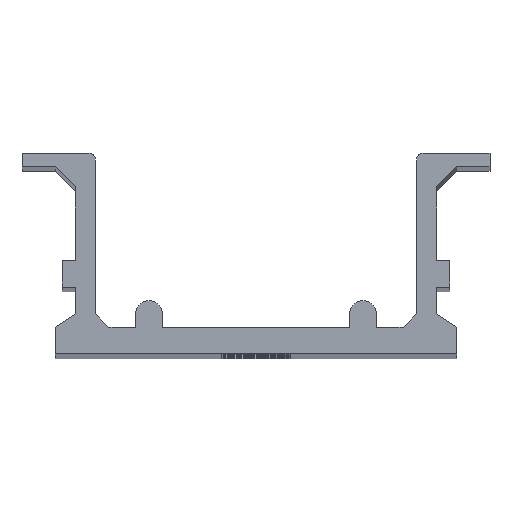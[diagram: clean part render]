
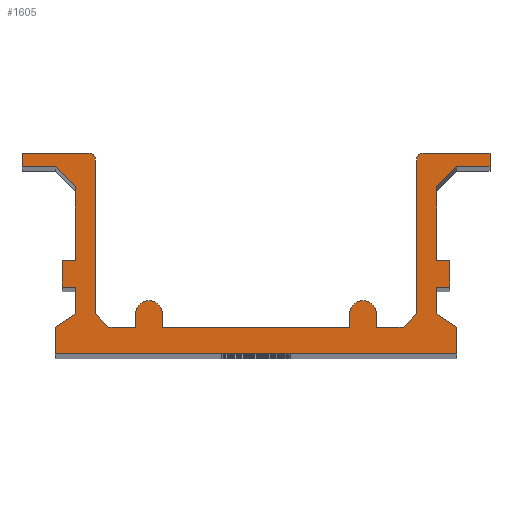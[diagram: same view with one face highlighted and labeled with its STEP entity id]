
A CAD part, top view. The second image highlights one B-rep face of the part: STEP entity #1605.
In plain terms, the highlighted planar face has unit normal (0, 0, 1).
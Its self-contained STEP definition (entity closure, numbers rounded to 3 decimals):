
#67=CIRCLE('',#1741,0.5);
#68=CIRCLE('',#1742,0.5);
#69=CIRCLE('',#1743,1.);
#70=CIRCLE('',#1744,1.);
#139=FACE_OUTER_BOUND('',#219,.T.);
#219=EDGE_LOOP('',(#1177,#1178,#1179,#1180,#1181,#1182,#1183,#1184,#1185,
#1186,#1187,#1188,#1189,#1190,#1191,#1192,#1193,#1194,#1195,#1196,#1197,
#1198,#1199,#1200,#1201,#1202,#1203,#1204,#1205,#1206,#1207,#1208,#1209,
#1210,#1211,#1212,#1213,#1214));
#351=LINE('',#2444,#537);
#352=LINE('',#2446,#538);
#353=LINE('',#2448,#539);
#354=LINE('',#2452,#540);
#355=LINE('',#2454,#541);
#356=LINE('',#2456,#542);
#357=LINE('',#2458,#543);
#358=LINE('',#2460,#544);
#359=LINE('',#2462,#545);
#360=LINE('',#2464,#546);
#361=LINE('',#2466,#547);
#362=LINE('',#2468,#548);
#363=LINE('',#2470,#549);
#364=LINE('',#2472,#550);
#365=LINE('',#2474,#551);
#366=LINE('',#2476,#552);
#367=LINE('',#2478,#553);
#368=LINE('',#2480,#554);
#369=LINE('',#2482,#555);
#370=LINE('',#2484,#556);
#371=LINE('',#2486,#557);
#372=LINE('',#2488,#558);
#373=LINE('',#2490,#559);
#374=LINE('',#2492,#560);
#375=LINE('',#2494,#561);
#376=LINE('',#2496,#562);
#377=LINE('',#2500,#563);
#378=LINE('',#2502,#564);
#379=LINE('',#2504,#565);
#380=LINE('',#2506,#566);
#381=LINE('',#2510,#567);
#382=LINE('',#2512,#568);
#383=LINE('',#2514,#569);
#384=LINE('',#2517,#570);
#537=VECTOR('',#2000,10.);
#538=VECTOR('',#2001,10.);
#539=VECTOR('',#2002,10.);
#540=VECTOR('',#2005,10.);
#541=VECTOR('',#2006,10.);
#542=VECTOR('',#2007,10.);
#543=VECTOR('',#2008,10.);
#544=VECTOR('',#2009,10.);
#545=VECTOR('',#2010,10.);
#546=VECTOR('',#2011,10.);
#547=VECTOR('',#2012,10.);
#548=VECTOR('',#2013,10.);
#549=VECTOR('',#2014,10.);
#550=VECTOR('',#2015,10.);
#551=VECTOR('',#2016,10.);
#552=VECTOR('',#2017,10.);
#553=VECTOR('',#2018,10.);
#554=VECTOR('',#2019,10.);
#555=VECTOR('',#2020,10.);
#556=VECTOR('',#2021,10.);
#557=VECTOR('',#2022,10.);
#558=VECTOR('',#2023,10.);
#559=VECTOR('',#2024,10.);
#560=VECTOR('',#2025,10.);
#561=VECTOR('',#2026,10.);
#562=VECTOR('',#2027,10.);
#563=VECTOR('',#2030,10.);
#564=VECTOR('',#2031,10.);
#565=VECTOR('',#2032,10.);
#566=VECTOR('',#2033,10.);
#567=VECTOR('',#2036,10.);
#568=VECTOR('',#2037,10.);
#569=VECTOR('',#2038,10.);
#570=VECTOR('',#2041,10.);
#723=VERTEX_POINT('',#2442);
#724=VERTEX_POINT('',#2443);
#725=VERTEX_POINT('',#2445);
#726=VERTEX_POINT('',#2447);
#727=VERTEX_POINT('',#2449);
#728=VERTEX_POINT('',#2451);
#729=VERTEX_POINT('',#2453);
#730=VERTEX_POINT('',#2455);
#731=VERTEX_POINT('',#2457);
#732=VERTEX_POINT('',#2459);
#733=VERTEX_POINT('',#2461);
#734=VERTEX_POINT('',#2463);
#735=VERTEX_POINT('',#2465);
#736=VERTEX_POINT('',#2467);
#737=VERTEX_POINT('',#2469);
#738=VERTEX_POINT('',#2471);
#739=VERTEX_POINT('',#2473);
#740=VERTEX_POINT('',#2475);
#741=VERTEX_POINT('',#2477);
#742=VERTEX_POINT('',#2479);
#743=VERTEX_POINT('',#2481);
#744=VERTEX_POINT('',#2483);
#745=VERTEX_POINT('',#2485);
#746=VERTEX_POINT('',#2487);
#747=VERTEX_POINT('',#2489);
#748=VERTEX_POINT('',#2491);
#749=VERTEX_POINT('',#2493);
#750=VERTEX_POINT('',#2495);
#751=VERTEX_POINT('',#2497);
#752=VERTEX_POINT('',#2499);
#753=VERTEX_POINT('',#2501);
#754=VERTEX_POINT('',#2503);
#755=VERTEX_POINT('',#2505);
#756=VERTEX_POINT('',#2507);
#757=VERTEX_POINT('',#2509);
#758=VERTEX_POINT('',#2511);
#759=VERTEX_POINT('',#2513);
#760=VERTEX_POINT('',#2515);
#911=EDGE_CURVE('',#723,#724,#351,.T.);
#912=EDGE_CURVE('',#724,#725,#352,.T.);
#913=EDGE_CURVE('',#725,#726,#353,.T.);
#914=EDGE_CURVE('',#726,#727,#67,.T.);
#915=EDGE_CURVE('',#727,#728,#354,.T.);
#916=EDGE_CURVE('',#728,#729,#355,.T.);
#917=EDGE_CURVE('',#729,#730,#356,.T.);
#918=EDGE_CURVE('',#730,#731,#357,.T.);
#919=EDGE_CURVE('',#731,#732,#358,.T.);
#920=EDGE_CURVE('',#732,#733,#359,.T.);
#921=EDGE_CURVE('',#733,#734,#360,.T.);
#922=EDGE_CURVE('',#734,#735,#361,.T.);
#923=EDGE_CURVE('',#735,#736,#362,.T.);
#924=EDGE_CURVE('',#736,#737,#363,.T.);
#925=EDGE_CURVE('',#737,#738,#364,.T.);
#926=EDGE_CURVE('',#738,#739,#365,.T.);
#927=EDGE_CURVE('',#739,#740,#366,.T.);
#928=EDGE_CURVE('',#740,#741,#367,.T.);
#929=EDGE_CURVE('',#741,#742,#368,.T.);
#930=EDGE_CURVE('',#742,#743,#369,.T.);
#931=EDGE_CURVE('',#743,#744,#370,.T.);
#932=EDGE_CURVE('',#744,#745,#371,.T.);
#933=EDGE_CURVE('',#745,#746,#372,.T.);
#934=EDGE_CURVE('',#746,#747,#373,.T.);
#935=EDGE_CURVE('',#747,#748,#374,.T.);
#936=EDGE_CURVE('',#748,#749,#375,.T.);
#937=EDGE_CURVE('',#749,#750,#376,.T.);
#938=EDGE_CURVE('',#750,#751,#68,.T.);
#939=EDGE_CURVE('',#751,#752,#377,.T.);
#940=EDGE_CURVE('',#752,#753,#378,.T.);
#941=EDGE_CURVE('',#753,#754,#379,.T.);
#942=EDGE_CURVE('',#754,#755,#380,.T.);
#943=EDGE_CURVE('',#755,#756,#69,.T.);
#944=EDGE_CURVE('',#756,#757,#381,.T.);
#945=EDGE_CURVE('',#757,#758,#382,.T.);
#946=EDGE_CURVE('',#758,#759,#383,.T.);
#947=EDGE_CURVE('',#759,#760,#70,.T.);
#948=EDGE_CURVE('',#760,#723,#384,.T.);
#1177=ORIENTED_EDGE('',*,*,#911,.T.);
#1178=ORIENTED_EDGE('',*,*,#912,.T.);
#1179=ORIENTED_EDGE('',*,*,#913,.T.);
#1180=ORIENTED_EDGE('',*,*,#914,.T.);
#1181=ORIENTED_EDGE('',*,*,#915,.T.);
#1182=ORIENTED_EDGE('',*,*,#916,.T.);
#1183=ORIENTED_EDGE('',*,*,#917,.T.);
#1184=ORIENTED_EDGE('',*,*,#918,.T.);
#1185=ORIENTED_EDGE('',*,*,#919,.T.);
#1186=ORIENTED_EDGE('',*,*,#920,.T.);
#1187=ORIENTED_EDGE('',*,*,#921,.T.);
#1188=ORIENTED_EDGE('',*,*,#922,.T.);
#1189=ORIENTED_EDGE('',*,*,#923,.T.);
#1190=ORIENTED_EDGE('',*,*,#924,.T.);
#1191=ORIENTED_EDGE('',*,*,#925,.T.);
#1192=ORIENTED_EDGE('',*,*,#926,.T.);
#1193=ORIENTED_EDGE('',*,*,#927,.T.);
#1194=ORIENTED_EDGE('',*,*,#928,.T.);
#1195=ORIENTED_EDGE('',*,*,#929,.T.);
#1196=ORIENTED_EDGE('',*,*,#930,.T.);
#1197=ORIENTED_EDGE('',*,*,#931,.T.);
#1198=ORIENTED_EDGE('',*,*,#932,.T.);
#1199=ORIENTED_EDGE('',*,*,#933,.T.);
#1200=ORIENTED_EDGE('',*,*,#934,.T.);
#1201=ORIENTED_EDGE('',*,*,#935,.T.);
#1202=ORIENTED_EDGE('',*,*,#936,.T.);
#1203=ORIENTED_EDGE('',*,*,#937,.T.);
#1204=ORIENTED_EDGE('',*,*,#938,.T.);
#1205=ORIENTED_EDGE('',*,*,#939,.T.);
#1206=ORIENTED_EDGE('',*,*,#940,.T.);
#1207=ORIENTED_EDGE('',*,*,#941,.T.);
#1208=ORIENTED_EDGE('',*,*,#942,.T.);
#1209=ORIENTED_EDGE('',*,*,#943,.T.);
#1210=ORIENTED_EDGE('',*,*,#944,.T.);
#1211=ORIENTED_EDGE('',*,*,#945,.T.);
#1212=ORIENTED_EDGE('',*,*,#946,.T.);
#1213=ORIENTED_EDGE('',*,*,#947,.T.);
#1214=ORIENTED_EDGE('',*,*,#948,.T.);
#1533=PLANE('',#1740);
#1605=ADVANCED_FACE('',(#139),#1533,.T.);
#1740=AXIS2_PLACEMENT_3D('',#2441,#1998,#1999);
#1741=AXIS2_PLACEMENT_3D('',#2450,#2003,#2004);
#1742=AXIS2_PLACEMENT_3D('',#2498,#2028,#2029);
#1743=AXIS2_PLACEMENT_3D('',#2508,#2034,#2035);
#1744=AXIS2_PLACEMENT_3D('',#2516,#2039,#2040);
#1998=DIRECTION('center_axis',(0.,0.,1.));
#1999=DIRECTION('ref_axis',(1.,0.,0.));
#2000=DIRECTION('',(-1.,0.,0.));
#2001=DIRECTION('',(-0.707,0.707,0.));
#2002=DIRECTION('',(0.,1.,0.));
#2003=DIRECTION('center_axis',(0.,0.,1.));
#2004=DIRECTION('ref_axis',(1.,0.,0.));
#2005=DIRECTION('',(-1.,0.,0.));
#2006=DIRECTION('',(0.,-1.,0.));
#2007=DIRECTION('',(1.,0.,0.));
#2008=DIRECTION('',(0.707,-0.707,0.));
#2009=DIRECTION('',(0.,-1.,0.));
#2010=DIRECTION('',(-1.,0.,0.));
#2011=DIRECTION('',(0.,-1.,0.));
#2012=DIRECTION('',(1.,0.,0.));
#2013=DIRECTION('',(0.,-1.,0.));
#2014=DIRECTION('',(-0.832,-0.555,0.));
#2015=DIRECTION('',(0.,-1.,0.));
#2016=DIRECTION('',(1.,0.,0.));
#2017=DIRECTION('',(0.,1.,0.));
#2018=DIRECTION('',(-0.832,0.555,0.));
#2019=DIRECTION('',(0.,1.,0.));
#2020=DIRECTION('',(1.,0.,0.));
#2021=DIRECTION('',(0.,1.,0.));
#2022=DIRECTION('',(-1.,0.,0.));
#2023=DIRECTION('',(0.,1.,0.));
#2024=DIRECTION('',(0.707,0.707,0.));
#2025=DIRECTION('',(1.,0.,0.));
#2026=DIRECTION('',(0.,1.,0.));
#2027=DIRECTION('',(-1.,0.,0.));
#2028=DIRECTION('center_axis',(0.,0.,1.));
#2029=DIRECTION('ref_axis',(0.,1.,0.));
#2030=DIRECTION('',(0.,-1.,0.));
#2031=DIRECTION('',(-0.707,-0.707,0.));
#2032=DIRECTION('',(-1.,0.,0.));
#2033=DIRECTION('',(0.,1.,0.));
#2034=DIRECTION('center_axis',(0.,0.,1.));
#2035=DIRECTION('ref_axis',(1.,0.,0.));
#2036=DIRECTION('',(0.,-1.,0.));
#2037=DIRECTION('',(-1.,0.,0.));
#2038=DIRECTION('',(0.,1.,0.));
#2039=DIRECTION('center_axis',(0.,0.,1.));
#2040=DIRECTION('ref_axis',(1.,0.,0.));
#2041=DIRECTION('',(0.,-1.,0.));
#2441=CARTESIAN_POINT('Origin',(0.,7.5,197.));
#2442=CARTESIAN_POINT('',(-9.,2.,197.));
#2443=CARTESIAN_POINT('',(-11.,2.,197.));
#2444=CARTESIAN_POINT('',(-9.,2.,197.));
#2445=CARTESIAN_POINT('',(-12.,3.,197.));
#2446=CARTESIAN_POINT('',(-11.,2.,197.));
#2447=CARTESIAN_POINT('',(-12.,14.5,197.));
#2448=CARTESIAN_POINT('',(-12.,3.,197.));
#2449=CARTESIAN_POINT('',(-12.5,15.,197.));
#2450=CARTESIAN_POINT('Origin',(-12.5,14.5,197.));
#2451=CARTESIAN_POINT('',(-17.5,15.,197.));
#2452=CARTESIAN_POINT('',(-12.5,15.,197.));
#2453=CARTESIAN_POINT('',(-17.5,14.,197.));
#2454=CARTESIAN_POINT('',(-17.5,15.,197.));
#2455=CARTESIAN_POINT('',(-15.,14.,197.));
#2456=CARTESIAN_POINT('',(-17.5,14.,197.));
#2457=CARTESIAN_POINT('',(-13.5,12.5,197.));
#2458=CARTESIAN_POINT('',(-15.,14.,197.));
#2459=CARTESIAN_POINT('',(-13.5,7.,197.));
#2460=CARTESIAN_POINT('',(-13.5,12.5,197.));
#2461=CARTESIAN_POINT('',(-14.5,7.,197.));
#2462=CARTESIAN_POINT('',(-13.5,7.,197.));
#2463=CARTESIAN_POINT('',(-14.5,5.,197.));
#2464=CARTESIAN_POINT('',(-14.5,7.,197.));
#2465=CARTESIAN_POINT('',(-13.5,5.,197.));
#2466=CARTESIAN_POINT('',(-14.5,5.,197.));
#2467=CARTESIAN_POINT('',(-13.5,3.,197.));
#2468=CARTESIAN_POINT('',(-13.5,5.,197.));
#2469=CARTESIAN_POINT('',(-15.,2.,197.));
#2470=CARTESIAN_POINT('',(-13.5,3.,197.));
#2471=CARTESIAN_POINT('',(-15.,0.,197.));
#2472=CARTESIAN_POINT('',(-15.,2.,197.));
#2473=CARTESIAN_POINT('',(15.,0.,197.));
#2474=CARTESIAN_POINT('',(-15.,0.,197.));
#2475=CARTESIAN_POINT('',(15.,2.,197.));
#2476=CARTESIAN_POINT('',(15.,0.,197.));
#2477=CARTESIAN_POINT('',(13.5,3.,197.));
#2478=CARTESIAN_POINT('',(15.,2.,197.));
#2479=CARTESIAN_POINT('',(13.5,5.,197.));
#2480=CARTESIAN_POINT('',(13.5,3.,197.));
#2481=CARTESIAN_POINT('',(14.5,5.,197.));
#2482=CARTESIAN_POINT('',(13.5,5.,197.));
#2483=CARTESIAN_POINT('',(14.5,7.,197.));
#2484=CARTESIAN_POINT('',(14.5,5.,197.));
#2485=CARTESIAN_POINT('',(13.5,7.,197.));
#2486=CARTESIAN_POINT('',(14.5,7.,197.));
#2487=CARTESIAN_POINT('',(13.5,12.5,197.));
#2488=CARTESIAN_POINT('',(13.5,7.,197.));
#2489=CARTESIAN_POINT('',(15.,14.,197.));
#2490=CARTESIAN_POINT('',(13.5,12.5,197.));
#2491=CARTESIAN_POINT('',(17.5,14.,197.));
#2492=CARTESIAN_POINT('',(15.,14.,197.));
#2493=CARTESIAN_POINT('',(17.5,15.,197.));
#2494=CARTESIAN_POINT('',(17.5,14.,197.));
#2495=CARTESIAN_POINT('',(12.5,15.,197.));
#2496=CARTESIAN_POINT('',(17.5,15.,197.));
#2497=CARTESIAN_POINT('',(12.,14.5,197.));
#2498=CARTESIAN_POINT('Origin',(12.5,14.5,197.));
#2499=CARTESIAN_POINT('',(12.,3.,197.));
#2500=CARTESIAN_POINT('',(12.,14.5,197.));
#2501=CARTESIAN_POINT('',(11.,2.,197.));
#2502=CARTESIAN_POINT('',(12.,3.,197.));
#2503=CARTESIAN_POINT('',(9.,2.,197.));
#2504=CARTESIAN_POINT('',(11.,2.,197.));
#2505=CARTESIAN_POINT('',(9.,3.,197.));
#2506=CARTESIAN_POINT('',(9.,2.,197.));
#2507=CARTESIAN_POINT('',(7.,3.,197.));
#2508=CARTESIAN_POINT('Origin',(8.,3.,197.));
#2509=CARTESIAN_POINT('',(7.,2.,197.));
#2510=CARTESIAN_POINT('',(7.,3.,197.));
#2511=CARTESIAN_POINT('',(-7.,2.,197.));
#2512=CARTESIAN_POINT('',(7.,2.,197.));
#2513=CARTESIAN_POINT('',(-7.,3.,197.));
#2514=CARTESIAN_POINT('',(-7.,2.,197.));
#2515=CARTESIAN_POINT('',(-9.,3.,197.));
#2516=CARTESIAN_POINT('Origin',(-8.,3.,197.));
#2517=CARTESIAN_POINT('',(-9.,3.,197.));
